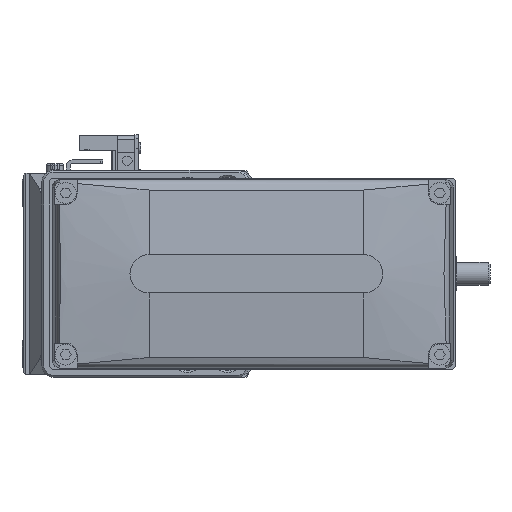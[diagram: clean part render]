
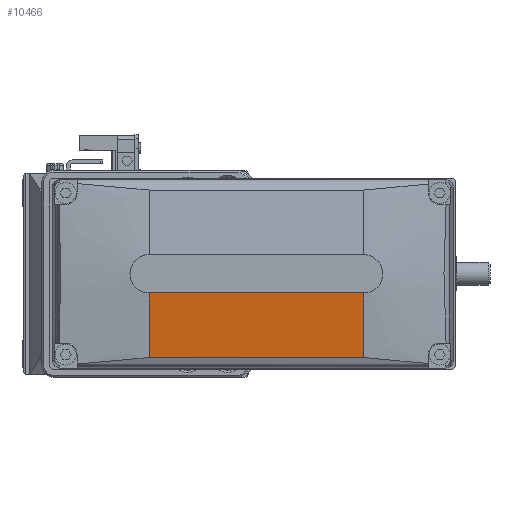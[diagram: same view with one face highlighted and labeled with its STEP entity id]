
A CAD part, left-side view. The second image highlights one B-rep face of the part: STEP entity #10466.
In plain terms, the highlighted planar face has unit normal (-0.996, 0, -0.087).
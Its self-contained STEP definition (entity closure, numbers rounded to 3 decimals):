
#155 = VERTEX_POINT ( 'NONE', #26127 ) ;
#1490 = VERTEX_POINT ( 'NONE', #30013 ) ;
#3168 = DIRECTION ( 'NONE',  ( -0.087, 0., 0.996 ) ) ;
#4586 = LINE ( 'NONE', #7773, #27088 ) ;
#4890 = DIRECTION ( 'NONE',  ( 0., 1., 0. ) ) ;
#5413 = FACE_OUTER_BOUND ( 'NONE', #30380, .T. ) ;
#6911 = LINE ( 'NONE', #21309, #13897 ) ;
#7227 = LINE ( 'NONE', #26397, #23633 ) ;
#7773 = CARTESIAN_POINT ( 'NONE',  ( -50., 128., -5. ) ) ;
#8280 = CARTESIAN_POINT ( 'NONE',  ( -50., 128., -5. ) ) ;
#9498 = CARTESIAN_POINT ( 'NONE',  ( 43606.406, -28., -499000. ) ) ;
#9765 = ORIENTED_EDGE ( 'NONE', *, *, #34570, .F. ) ;
#10466 = ADVANCED_FACE ( 'NONE', ( #5413 ), #37751, .T. ) ;
#10880 = VERTEX_POINT ( 'NONE', #31061 ) ;
#11009 = DIRECTION ( 'NONE',  ( -0.996, 0., -0.087 ) ) ;
#12031 = AXIS2_PLACEMENT_3D ( 'NONE', #8280, #11009, #23079 ) ;
#13897 = VECTOR ( 'NONE', #3168, 1000. ) ;
#15244 = ORIENTED_EDGE ( 'NONE', *, *, #30939, .F. ) ;
#16070 = CARTESIAN_POINT ( 'NONE',  ( -50., 28., -5. ) ) ;
#20343 = DIRECTION ( 'NONE',  ( 0., 1., 0. ) ) ;
#21309 = CARTESIAN_POINT ( 'NONE',  ( 43606.406, 28., -499000. ) ) ;
#23079 = DIRECTION ( 'NONE',  ( -0.087, 0., 0.996 ) ) ;
#23633 = VECTOR ( 'NONE', #20343, 1000. ) ;
#26127 = CARTESIAN_POINT ( 'NONE',  ( -50., -28., -5. ) ) ;
#26397 = CARTESIAN_POINT ( 'NONE',  ( -48.525, 128., -21.861 ) ) ;
#26916 = ORIENTED_EDGE ( 'NONE', *, *, #36120, .T. ) ;
#27088 = VECTOR ( 'NONE', #4890, 1000. ) ;
#28168 = VERTEX_POINT ( 'NONE', #16070 ) ;
#29542 = EDGE_CURVE ( 'NONE', #10880, #1490, #7227, .T. ) ;
#30013 = CARTESIAN_POINT ( 'NONE',  ( -48.525, 28., -21.861 ) ) ;
#30380 = EDGE_LOOP ( 'NONE', ( #9765, #30903, #15244, #26916 ) ) ;
#30903 = ORIENTED_EDGE ( 'NONE', *, *, #29542, .F. ) ;
#30939 = EDGE_CURVE ( 'NONE', #155, #10880, #31946, .T. ) ;
#31061 = CARTESIAN_POINT ( 'NONE',  ( -48.525, -28., -21.861 ) ) ;
#31946 = LINE ( 'NONE', #9498, #34275 ) ;
#33229 = DIRECTION ( 'NONE',  ( 0.087, 0., -0.996 ) ) ;
#34275 = VECTOR ( 'NONE', #33229, 1000. ) ;
#34570 = EDGE_CURVE ( 'NONE', #1490, #28168, #6911, .T. ) ;
#36120 = EDGE_CURVE ( 'NONE', #155, #28168, #4586, .T. ) ;
#37751 = PLANE ( 'NONE',  #12031 ) ;
